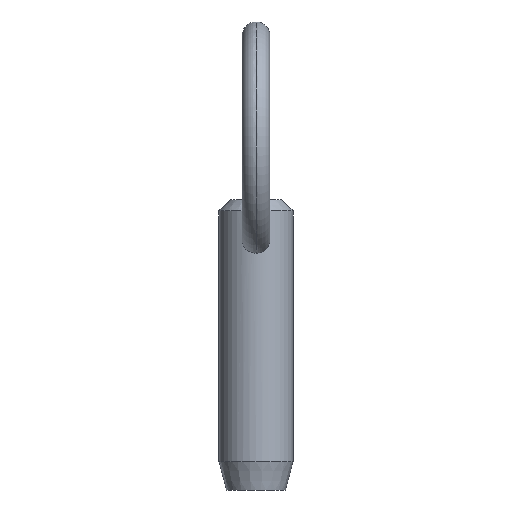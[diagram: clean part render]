
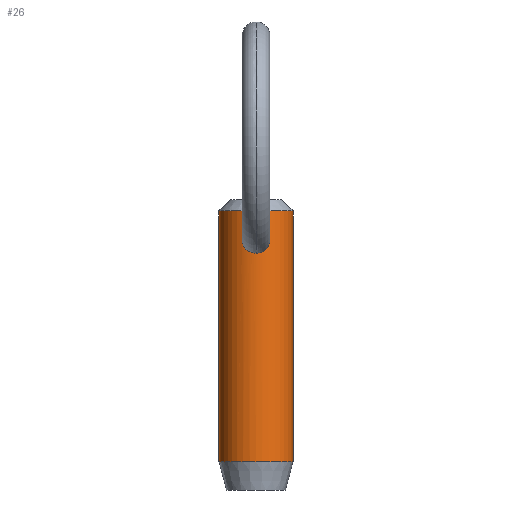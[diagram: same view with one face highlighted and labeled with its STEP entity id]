
A CAD part, front view. The second image highlights one B-rep face of the part: STEP entity #26.
In plain terms, the highlighted cylindrical face has radius 3.965 mm (diameter 7.93 mm), a partial arc.
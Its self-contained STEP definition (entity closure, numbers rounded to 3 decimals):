
#2 = AXIS2_PLACEMENT_3D ( 'NONE', #468, #196, #342 ) ;
#9 = EDGE_CURVE ( 'NONE', #162, #215, #358, .T. ) ;
#18 = ORIENTED_EDGE ( 'NONE', *, *, #141, .T. ) ;
#21 = CARTESIAN_POINT ( 'NONE',  ( 0.498, -3.935, 18.944 ) ) ;
#24 = CARTESIAN_POINT ( 'NONE',  ( 0.404, -3.946, 18.982 ) ) ;
#26 = ADVANCED_FACE ( 'NONE', ( #245, #87 ), #291, .T. ) ;
#31 = LINE ( 'NONE', #235, #317 ) ;
#36 = EDGE_CURVE ( 'NONE', #171, #481, #202, .T. ) ;
#44 = VERTEX_POINT ( 'NONE', #351 ) ;
#47 = VERTEX_POINT ( 'NONE', #507 ) ;
#48 = CARTESIAN_POINT ( 'NONE',  ( -0.205, -3.965, 15.835 ) ) ;
#51 = DIRECTION ( 'NONE',  ( 0., 0., -1. ) ) ;
#53 = CARTESIAN_POINT ( 'NONE',  ( 3.965, 0., 20.35 ) ) ;
#64 = CARTESIAN_POINT ( 'NONE',  ( 1.434, -3.697, 17.805 ) ) ;
#66 = CARTESIAN_POINT ( 'NONE',  ( 1.346, -3.73, 16.608 ) ) ;
#68 = CARTESIAN_POINT ( 'NONE',  ( 1.479, -3.679, 17.607 ) ) ;
#71 = CARTESIAN_POINT ( 'NONE',  ( 1.471, -3.682, 16.994 ) ) ;
#77 = CARTESIAN_POINT ( 'NONE',  ( 0., 0., 20.35 ) ) ;
#87 = FACE_BOUND ( 'NONE', #322, .T. ) ;
#93 = CARTESIAN_POINT ( 'NONE',  ( -1.29, -3.75, 18.185 ) ) ;
#103 = CARTESIAN_POINT ( 'NONE',  ( 0.409, -3.948, 15.874 ) ) ;
#106 = CARTESIAN_POINT ( 'NONE',  ( 0.205, -3.961, 19.034 ) ) ;
#114 = CARTESIAN_POINT ( 'NONE',  ( 1.028, -3.83, 16.215 ) ) ;
#123 = CARTESIAN_POINT ( 'NONE',  ( -1.379, -3.718, 16.703 ) ) ;
#129 = CARTESIAN_POINT ( 'NONE',  ( -1.168, -3.79, 16.359 ) ) ;
#133 = CARTESIAN_POINT ( 'NONE',  ( -0.498, -3.935, 18.944 ) ) ;
#136 = EDGE_LOOP ( 'NONE', ( #359, #328, #343, #414 ) ) ;
#140 = CARTESIAN_POINT ( 'NONE',  ( 3.965, 0., 15.2 ) ) ;
#141 = EDGE_CURVE ( 'NONE', #47, #44, #378, .T. ) ;
#147 = CARTESIAN_POINT ( 'NONE',  ( 0.205, -3.965, 15.835 ) ) ;
#157 = CARTESIAN_POINT ( 'NONE',  ( -0.41, -3.948, 15.874 ) ) ;
#162 = VERTEX_POINT ( 'NONE', #53 ) ;
#163 = VECTOR ( 'NONE', #496, 1000. ) ;
#170 = LINE ( 'NONE', #140, #163 ) ;
#171 = VERTEX_POINT ( 'NONE', #393 ) ;
#173 = CARTESIAN_POINT ( 'NONE',  ( 0., -3.965, 19.047 ) ) ;
#175 = CARTESIAN_POINT ( 'NONE',  ( -0.102, -3.965, 19.047 ) ) ;
#187 = CARTESIAN_POINT ( 'NONE',  ( 1.404, -3.708, 17.901 ) ) ;
#191 = ORIENTED_EDGE ( 'NONE', *, *, #491, .T. ) ;
#196 = DIRECTION ( 'NONE',  ( 0., 0., 1. ) ) ;
#201 = CARTESIAN_POINT ( 'NONE',  ( 0., -3.965, 15.835 ) ) ;
#202 = CIRCLE ( 'NONE', #2, 3.965 ) ;
#206 = CARTESIAN_POINT ( 'NONE',  ( -1.488, -3.675, 17.605 ) ) ;
#215 = VERTEX_POINT ( 'NONE', #300 ) ;
#228 = CARTESIAN_POINT ( 'NONE',  ( 1.503, -3.669, 17.299 ) ) ;
#233 = CARTESIAN_POINT ( 'NONE',  ( -1.335, -3.734, 16.61 ) ) ;
#235 = CARTESIAN_POINT ( 'NONE',  ( -3.965, 0., 15.2 ) ) ;
#245 = FACE_OUTER_BOUND ( 'NONE', #136, .T. ) ;
#254 = CARTESIAN_POINT ( 'NONE',  ( 0.782, -3.888, 16.037 ) ) ;
#255 = CARTESIAN_POINT ( 'NONE',  ( 0.102, -3.965, 19.047 ) ) ;
#264 = CARTESIAN_POINT ( 'NONE',  ( -1.508, -3.667, 17.197 ) ) ;
#271 = AXIS2_PLACEMENT_3D ( 'NONE', #415, #334, #421 ) ;
#274 = CARTESIAN_POINT ( 'NONE',  ( -1.186, -3.786, 18.36 ) ) ;
#283 = CARTESIAN_POINT ( 'NONE',  ( 0.925, -3.858, 18.668 ) ) ;
#290 = CARTESIAN_POINT ( 'NONE',  ( 0.77, -3.894, 18.8 ) ) ;
#291 = CYLINDRICAL_SURFACE ( 'NONE', #271, 3.965 ) ;
#300 = CARTESIAN_POINT ( 'NONE',  ( -3.965, 0., 20.35 ) ) ;
#304 = CARTESIAN_POINT ( 'NONE',  ( -0.957, -3.85, 16.141 ) ) ;
#309 = CARTESIAN_POINT ( 'NONE',  ( 3.965, 0., -6.52 ) ) ;
#312 = CARTESIAN_POINT ( 'NONE',  ( -0.925, -3.858, 18.668 ) ) ;
#317 = VECTOR ( 'NONE', #51, 1000. ) ;
#320 = CARTESIAN_POINT ( 'NONE',  ( 0.949, -3.851, 16.149 ) ) ;
#322 = EDGE_LOOP ( 'NONE', ( #191, #18 ) ) ;
#326 = CARTESIAN_POINT ( 'NONE',  ( 1.237, -3.77, 16.431 ) ) ;
#328 = ORIENTED_EDGE ( 'NONE', *, *, #9, .T. ) ;
#330 = DIRECTION ( 'NONE',  ( 1., 0., 0. ) ) ;
#334 = DIRECTION ( 'NONE',  ( 0., 0., -1. ) ) ;
#342 = DIRECTION ( 'NONE',  ( -1., 0., 0. ) ) ;
#343 = ORIENTED_EDGE ( 'NONE', *, *, #463, .T. ) ;
#349 = CARTESIAN_POINT ( 'NONE',  ( -1.48, -3.679, 16.989 ) ) ;
#351 = CARTESIAN_POINT ( 'NONE',  ( 0., -3.965, 19.047 ) ) ;
#354 = CARTESIAN_POINT ( 'NONE',  ( -1.441, -3.695, 17.808 ) ) ;
#356 = CARTESIAN_POINT ( 'NONE',  ( -0.403, -3.946, 18.982 ) ) ;
#358 = CIRCLE ( 'NONE', #360, 3.965 ) ;
#359 = ORIENTED_EDGE ( 'NONE', *, *, #484, .F. ) ;
#360 = AXIS2_PLACEMENT_3D ( 'NONE', #77, #509, #330 ) ;
#363 = CARTESIAN_POINT ( 'NONE',  ( 1.291, -3.75, 18.183 ) ) ;
#366 = CARTESIAN_POINT ( 'NONE',  ( 0.693, -3.905, 15.99 ) ) ;
#370 = CARTESIAN_POINT ( 'NONE',  ( 0., -3.965, 19.047 ) ) ;
#378 = B_SPLINE_CURVE_WITH_KNOTS ( 'NONE', 3,
 ( #201, #48, #157, #433, #304, #129, #384, #233, #123, #349, #264, #206, #354, #93, #274, #312, #438, #133, #356, #389, #175, #173 ),
 .UNSPECIFIED., .F., .F.,
 ( 4, 2, 2, 2, 2, 2, 2, 2, 2, 2, 4 ),
 ( 0.009, 0.01, 0.01, 0.011, 0.011, 0.012, 0.012, 0.013, 0.013, 0.014, 0.014 ),
 .UNSPECIFIED. ) ;
#384 = CARTESIAN_POINT ( 'NONE',  ( -1.229, -3.77, 16.439 ) ) ;
#389 = CARTESIAN_POINT ( 'NONE',  ( -0.206, -3.961, 19.034 ) ) ;
#393 = CARTESIAN_POINT ( 'NONE',  ( -3.965, 0., -6.52 ) ) ;
#400 = CARTESIAN_POINT ( 'NONE',  ( 1.499, -3.671, 17.197 ) ) ;
#402 = CARTESIAN_POINT ( 'NONE',  ( 1.186, -3.786, 18.359 ) ) ;
#414 = ORIENTED_EDGE ( 'NONE', *, *, #36, .T. ) ;
#415 = CARTESIAN_POINT ( 'NONE',  ( 0., 0., 15.2 ) ) ;
#421 = DIRECTION ( 'NONE',  ( -1., 0., 0. ) ) ;
#430 = B_SPLINE_CURVE_WITH_KNOTS ( 'NONE', 3,
 ( #370, #255, #106, #24, #21, #290, #283, #402, #363, #187, #64, #68, #460, #228, #400, #71, #500, #66, #326, #114, #320, #254, #366, #103, #147, #454 ),
 .UNSPECIFIED., .F., .F.,
 ( 4, 2, 2, 2, 2, 2, 2, 2, 2, 2, 2, 2, 4 ),
 ( 0.004, 0.005, 0.005, 0.005, 0.006, 0.006, 0.007, 0.007, 0.007, 0.008, 0.008, 0.008, 0.009 ),
 .UNSPECIFIED. ) ;
#433 = CARTESIAN_POINT ( 'NONE',  ( -0.788, -3.891, 16.028 ) ) ;
#438 = CARTESIAN_POINT ( 'NONE',  ( -0.77, -3.894, 18.8 ) ) ;
#454 = CARTESIAN_POINT ( 'NONE',  ( 0., -3.965, 15.835 ) ) ;
#460 = CARTESIAN_POINT ( 'NONE',  ( 1.493, -3.673, 17.504 ) ) ;
#463 = EDGE_CURVE ( 'NONE', #215, #171, #31, .T. ) ;
#468 = CARTESIAN_POINT ( 'NONE',  ( 0., 0., -6.52 ) ) ;
#481 = VERTEX_POINT ( 'NONE', #309 ) ;
#484 = EDGE_CURVE ( 'NONE', #162, #481, #170, .T. ) ;
#491 = EDGE_CURVE ( 'NONE', #44, #47, #430, .T. ) ;
#496 = DIRECTION ( 'NONE',  ( 0., 0., -1. ) ) ;
#500 = CARTESIAN_POINT ( 'NONE',  ( 1.447, -3.692, 16.893 ) ) ;
#507 = CARTESIAN_POINT ( 'NONE',  ( 0., -3.965, 15.835 ) ) ;
#509 = DIRECTION ( 'NONE',  ( 0., 0., -1. ) ) ;
